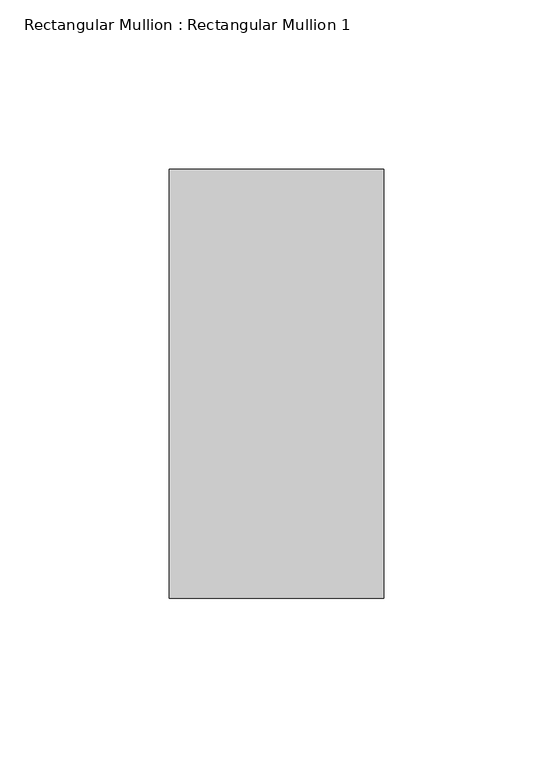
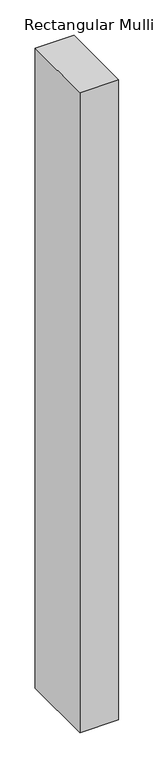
"""IFC4 building model written with IfcOpenShell, lengths in millimetres: member geometry, Rectangular Mullion : Rectangular Mullion 1."""

from ifc_helpers import new_model, si_unit, frame, origin, place, context, project, spatial, polyline, outline, extrude, source, transform, mapped, element, save


def rectangular_mullion_rectangular_mullion_1_65086490(model_context):
    return source(origin(), model_context, "Body", "SweptSolid", [
        extrude(outline(polyline([(0.0, 63.5), (0.0, -63.5), (-63.5, -63.5), (-63.5, 63.5), (0.0, 63.5)])), frame((0.0, 0.0, -1107.6214288), z_axis=(0.0, 0.0, 1.0), x_axis=(1.0, 0.0, 0.0)), (0.0, 0.0, 1.0), 1107.6214288),
    ])


if __name__ == "__main__":
    model = new_model("IFC4")
    model_context = context("Model", 3, world=origin())
    ifc_project = project(units=[si_unit("LENGTHUNIT", "METRE", prefix="MILLI")], contexts=[model_context])
    site = spatial("IfcSite", under=ifc_project)
    building = spatial("IfcBuilding", under=site)
    placement = place(None, origin())
    rectangular_mullion_rectangular_mullion_1_shape = rectangular_mullion_rectangular_mullion_1_65086490(model_context)
    element("IfcMember", 1, ObjectType="Rectangular Mullion : Rectangular Mullion 1", at=placement, inside=building, context=model_context, shape_type="MappedRepresentation", body=[
        mapped(rectangular_mullion_rectangular_mullion_1_shape, transform((0.0, 0.0, 0.0), x_axis=(1.0, 0.0, 0.0), y_axis=(0.0, 1.0, 0.0), z_axis=(0.0, 0.0, 1.0))),
    ])
    save(model, "model.ifc")
